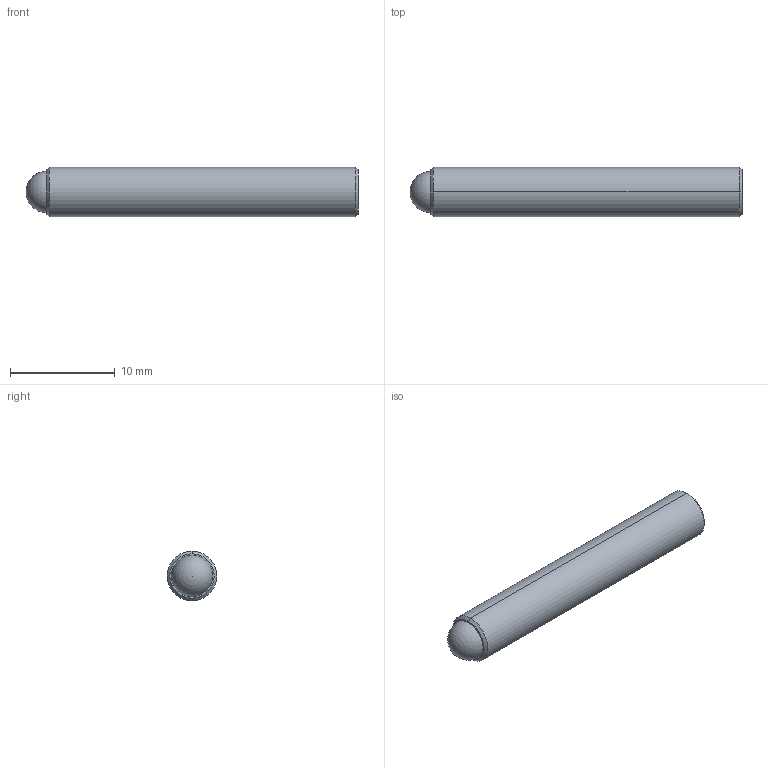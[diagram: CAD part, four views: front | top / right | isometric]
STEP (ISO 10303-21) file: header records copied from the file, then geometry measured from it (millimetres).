
FILE_DESCRIPTION (( 'STEP AP214' ), '1' );
FILE_NAME ('TS187-100-1250-AA.STEP', '2013-02-11T17:10:15', ( 'workpc' ), ( 'Microsoft' ), 'SwSTEP 2.0', 'SolidWorks 2013', '' );
FILE_SCHEMA (( 'AUTOMOTIVE_DESIGN' ));
Length unit declared in the file: inch
Products named in the file (1): TS187-100-1250-AA
Bounding box: 31.75 x 4.75 x 4.75 mm (x, y, z)
Volume: 523.5 mm3; surface area: 568 mm2
Topology: 2 solids, 2 shells, 20 faces, 45 edges, 29 vertices
Faces by surface type: plane 10, cylinder 4, cone 4, sphere 2
Entity records: 599 total; most frequent: DIRECTION 96, CARTESIAN_POINT 87, ORIENTED_EDGE 80, EDGE_CURVE 40, AXIS2_PLACEMENT_3D 35, VECTOR 26, VERTEX_POINT 26, LINE 26
